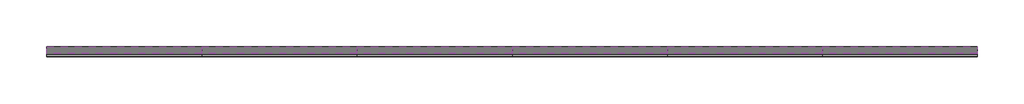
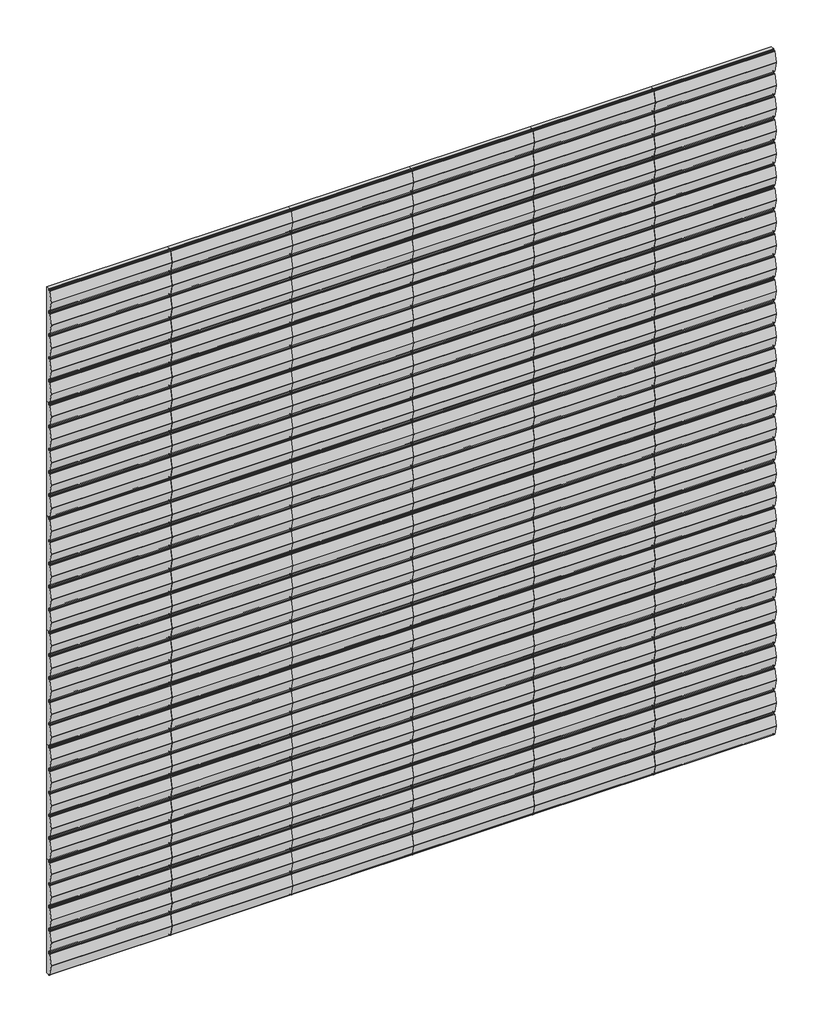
# One storey: 36 proxies.
"""IFC4 building model written with IfcOpenShell, lengths in millimetres."""

from ifc_helpers import new_model, si_unit, origin, place, context, project, spatial, transform, mapped, element, save
from components import specialty_equipment_52cbe585

model = new_model("IFC4")

# Units and contexts
model_context = context("Model", 3, world=origin())
ifc_project = project(units=[si_unit("LENGTHUNIT", "METRE", prefix="MILLI")], contexts=[model_context])

# Site, building, storey
site = spatial("IfcSite", under=ifc_project)
building = spatial("IfcBuilding", under=site)
storey = spatial("IfcBuildingStorey", under=building, Name="Nível 1", Elevation=0.0)

# Proxies
placement = place(None, origin())
specialty_equipment_shape = specialty_equipment_52cbe585(model_context)
element("IfcBuildingElementProxy", 1, Name="Spinneybeck_Porto 2 : Porto 2", ObjectType="Spinneybeck_Porto 2 : Porto 2", at=placement, inside=storey, context=model_context, shape_type="MappedRepresentation", body=[
    mapped(specialty_equipment_shape, transform((-8976.7950363, 552.5357437, 203.2), x_axis=(0.0, 0.0, 1.0), y_axis=(-1.0, 0.0, 0.0), z_axis=(0.0, -1.0, 0.0))),
])
element("IfcBuildingElementProxy", 2, Name="Spinneybeck_Porto 2 : Porto 2", ObjectType="Spinneybeck_Porto 2 : Porto 2", at=placement, inside=storey, context=model_context, shape_type="MappedRepresentation", body=[
    mapped(specialty_equipment_shape, transform((-8976.7950363, 552.5357437, 609.6), x_axis=(0.0, 0.0, 1.0), y_axis=(-1.0, 0.0, 0.0), z_axis=(0.0, -1.0, 0.0))),
])
element("IfcBuildingElementProxy", 3, Name="Spinneybeck_Porto 2 : Porto 2", ObjectType="Spinneybeck_Porto 2 : Porto 2", at=placement, inside=storey, context=model_context, shape_type="MappedRepresentation", body=[
    mapped(specialty_equipment_shape, transform((-8976.7950363, 552.5357437, 1016.0), x_axis=(0.0, 0.0, 1.0), y_axis=(-1.0, 0.0, 0.0), z_axis=(0.0, -1.0, 0.0))),
])
element("IfcBuildingElementProxy", 4, Name="Spinneybeck_Porto 2 : Porto 2", ObjectType="Spinneybeck_Porto 2 : Porto 2", at=placement, inside=storey, context=model_context, shape_type="MappedRepresentation", body=[
    mapped(specialty_equipment_shape, transform((-8976.7950363, 552.5357437, 1422.4), x_axis=(0.0, 0.0, 1.0), y_axis=(-1.0, 0.0, 0.0), z_axis=(0.0, -1.0, 0.0))),
])
element("IfcBuildingElementProxy", 5, Name="Spinneybeck_Porto 2 : Porto 2", ObjectType="Spinneybeck_Porto 2 : Porto 2", at=placement, inside=storey, context=model_context, shape_type="MappedRepresentation", body=[
    mapped(specialty_equipment_shape, transform((-8976.7950363, 552.5357437, 1828.8), x_axis=(0.0, 0.0, 1.0), y_axis=(-1.0, 0.0, 0.0), z_axis=(0.0, -1.0, 0.0))),
])
element("IfcBuildingElementProxy", 6, Name="Spinneybeck_Porto 2 : Porto 2", ObjectType="Spinneybeck_Porto 2 : Porto 2", at=placement, inside=storey, context=model_context, shape_type="MappedRepresentation", body=[
    mapped(specialty_equipment_shape, transform((-8976.7950363, 552.5357437, 2235.2), x_axis=(0.0, 0.0, 1.0), y_axis=(-1.0, 0.0, 0.0), z_axis=(0.0, -1.0, 0.0))),
])
element("IfcBuildingElementProxy", 7, Name="Spinneybeck_Porto 2 : Porto 2", ObjectType="Spinneybeck_Porto 2 : Porto 2", at=placement, inside=storey, context=model_context, shape_type="MappedRepresentation", body=[
    mapped(specialty_equipment_shape, transform((-8570.3950363, 552.5357437, 203.2), x_axis=(0.0, 0.0, 1.0), y_axis=(-1.0, 0.0, 0.0), z_axis=(0.0, -1.0, 0.0))),
])
element("IfcBuildingElementProxy", 8, Name="Spinneybeck_Porto 2 : Porto 2", ObjectType="Spinneybeck_Porto 2 : Porto 2", at=placement, inside=storey, context=model_context, shape_type="MappedRepresentation", body=[
    mapped(specialty_equipment_shape, transform((-8570.3950363, 552.5357437, 609.6), x_axis=(0.0, 0.0, 1.0), y_axis=(-1.0, 0.0, 0.0), z_axis=(0.0, -1.0, 0.0))),
])
element("IfcBuildingElementProxy", 9, Name="Spinneybeck_Porto 2 : Porto 2", ObjectType="Spinneybeck_Porto 2 : Porto 2", at=placement, inside=storey, context=model_context, shape_type="MappedRepresentation", body=[
    mapped(specialty_equipment_shape, transform((-8570.3950363, 552.5357437, 1016.0), x_axis=(0.0, 0.0, 1.0), y_axis=(-1.0, 0.0, 0.0), z_axis=(0.0, -1.0, 0.0))),
])
element("IfcBuildingElementProxy", 10, Name="Spinneybeck_Porto 2 : Porto 2", ObjectType="Spinneybeck_Porto 2 : Porto 2", at=placement, inside=storey, context=model_context, shape_type="MappedRepresentation", body=[
    mapped(specialty_equipment_shape, transform((-8570.3950363, 552.5357437, 1422.4), x_axis=(0.0, 0.0, 1.0), y_axis=(-1.0, 0.0, 0.0), z_axis=(0.0, -1.0, 0.0))),
])
element("IfcBuildingElementProxy", 11, Name="Spinneybeck_Porto 2 : Porto 2", ObjectType="Spinneybeck_Porto 2 : Porto 2", at=placement, inside=storey, context=model_context, shape_type="MappedRepresentation", body=[
    mapped(specialty_equipment_shape, transform((-8570.3950363, 552.5357437, 1828.8), x_axis=(0.0, 0.0, 1.0), y_axis=(-1.0, 0.0, 0.0), z_axis=(0.0, -1.0, 0.0))),
])
element("IfcBuildingElementProxy", 12, Name="Spinneybeck_Porto 2 : Porto 2", ObjectType="Spinneybeck_Porto 2 : Porto 2", at=placement, inside=storey, context=model_context, shape_type="MappedRepresentation", body=[
    mapped(specialty_equipment_shape, transform((-8570.3950363, 552.5357437, 2235.2), x_axis=(0.0, 0.0, 1.0), y_axis=(-1.0, 0.0, 0.0), z_axis=(0.0, -1.0, 0.0))),
])
element("IfcBuildingElementProxy", 13, Name="Spinneybeck_Porto 2 : Porto 2", ObjectType="Spinneybeck_Porto 2 : Porto 2", at=placement, inside=storey, context=model_context, shape_type="MappedRepresentation", body=[
    mapped(specialty_equipment_shape, transform((-8163.9950363, 552.5357437, 203.2), x_axis=(0.0, 0.0, 1.0), y_axis=(-1.0, 0.0, 0.0), z_axis=(0.0, -1.0, 0.0))),
])
element("IfcBuildingElementProxy", 14, Name="Spinneybeck_Porto 2 : Porto 2", ObjectType="Spinneybeck_Porto 2 : Porto 2", at=placement, inside=storey, context=model_context, shape_type="MappedRepresentation", body=[
    mapped(specialty_equipment_shape, transform((-8163.9950363, 552.5357437, 609.6), x_axis=(0.0, 0.0, 1.0), y_axis=(-1.0, 0.0, 0.0), z_axis=(0.0, -1.0, 0.0))),
])
element("IfcBuildingElementProxy", 15, Name="Spinneybeck_Porto 2 : Porto 2", ObjectType="Spinneybeck_Porto 2 : Porto 2", at=placement, inside=storey, context=model_context, shape_type="MappedRepresentation", body=[
    mapped(specialty_equipment_shape, transform((-8163.9950363, 552.5357437, 1016.0), x_axis=(0.0, 0.0, 1.0), y_axis=(-1.0, 0.0, 0.0), z_axis=(0.0, -1.0, 0.0))),
])
element("IfcBuildingElementProxy", 16, Name="Spinneybeck_Porto 2 : Porto 2", ObjectType="Spinneybeck_Porto 2 : Porto 2", at=placement, inside=storey, context=model_context, shape_type="MappedRepresentation", body=[
    mapped(specialty_equipment_shape, transform((-8163.9950363, 552.5357437, 1422.4), x_axis=(0.0, 0.0, 1.0), y_axis=(-1.0, 0.0, 0.0), z_axis=(0.0, -1.0, 0.0))),
])
element("IfcBuildingElementProxy", 17, Name="Spinneybeck_Porto 2 : Porto 2", ObjectType="Spinneybeck_Porto 2 : Porto 2", at=placement, inside=storey, context=model_context, shape_type="MappedRepresentation", body=[
    mapped(specialty_equipment_shape, transform((-8163.9950363, 552.5357437, 1828.8), x_axis=(0.0, 0.0, 1.0), y_axis=(-1.0, 0.0, 0.0), z_axis=(0.0, -1.0, 0.0))),
])
element("IfcBuildingElementProxy", 18, Name="Spinneybeck_Porto 2 : Porto 2", ObjectType="Spinneybeck_Porto 2 : Porto 2", at=placement, inside=storey, context=model_context, shape_type="MappedRepresentation", body=[
    mapped(specialty_equipment_shape, transform((-8163.9950363, 552.5357437, 2235.2), x_axis=(0.0, 0.0, 1.0), y_axis=(-1.0, 0.0, 0.0), z_axis=(0.0, -1.0, 0.0))),
])
element("IfcBuildingElementProxy", 19, Name="Spinneybeck_Porto 2 : Porto 2", ObjectType="Spinneybeck_Porto 2 : Porto 2", at=placement, inside=storey, context=model_context, shape_type="MappedRepresentation", body=[
    mapped(specialty_equipment_shape, transform((-7757.5950363, 552.5357437, 203.2), x_axis=(0.0, 0.0, 1.0), y_axis=(-1.0, 0.0, 0.0), z_axis=(0.0, -1.0, 0.0))),
])
element("IfcBuildingElementProxy", 20, Name="Spinneybeck_Porto 2 : Porto 2", ObjectType="Spinneybeck_Porto 2 : Porto 2", at=placement, inside=storey, context=model_context, shape_type="MappedRepresentation", body=[
    mapped(specialty_equipment_shape, transform((-7757.5950363, 552.5357437, 609.6), x_axis=(0.0, 0.0, 1.0), y_axis=(-1.0, 0.0, 0.0), z_axis=(0.0, -1.0, 0.0))),
])
element("IfcBuildingElementProxy", 21, Name="Spinneybeck_Porto 2 : Porto 2", ObjectType="Spinneybeck_Porto 2 : Porto 2", at=placement, inside=storey, context=model_context, shape_type="MappedRepresentation", body=[
    mapped(specialty_equipment_shape, transform((-7757.5950363, 552.5357437, 1016.0), x_axis=(0.0, 0.0, 1.0), y_axis=(-1.0, 0.0, 0.0), z_axis=(0.0, -1.0, 0.0))),
])
element("IfcBuildingElementProxy", 22, Name="Spinneybeck_Porto 2 : Porto 2", ObjectType="Spinneybeck_Porto 2 : Porto 2", at=placement, inside=storey, context=model_context, shape_type="MappedRepresentation", body=[
    mapped(specialty_equipment_shape, transform((-7757.5950363, 552.5357437, 1422.4), x_axis=(0.0, 0.0, 1.0), y_axis=(-1.0, 0.0, 0.0), z_axis=(0.0, -1.0, 0.0))),
])
element("IfcBuildingElementProxy", 23, Name="Spinneybeck_Porto 2 : Porto 2", ObjectType="Spinneybeck_Porto 2 : Porto 2", at=placement, inside=storey, context=model_context, shape_type="MappedRepresentation", body=[
    mapped(specialty_equipment_shape, transform((-7757.5950363, 552.5357437, 1828.8), x_axis=(0.0, 0.0, 1.0), y_axis=(-1.0, 0.0, 0.0), z_axis=(0.0, -1.0, 0.0))),
])
element("IfcBuildingElementProxy", 24, Name="Spinneybeck_Porto 2 : Porto 2", ObjectType="Spinneybeck_Porto 2 : Porto 2", at=placement, inside=storey, context=model_context, shape_type="MappedRepresentation", body=[
    mapped(specialty_equipment_shape, transform((-7757.5950363, 552.5357437, 2235.2), x_axis=(0.0, 0.0, 1.0), y_axis=(-1.0, 0.0, 0.0), z_axis=(0.0, -1.0, 0.0))),
])
element("IfcBuildingElementProxy", 25, Name="Spinneybeck_Porto 2 : Porto 2", ObjectType="Spinneybeck_Porto 2 : Porto 2", at=placement, inside=storey, context=model_context, shape_type="MappedRepresentation", body=[
    mapped(specialty_equipment_shape, transform((-7351.1950363, 552.5357437, 203.2), x_axis=(0.0, 0.0, 1.0), y_axis=(-1.0, 0.0, 0.0), z_axis=(0.0, -1.0, 0.0))),
])
element("IfcBuildingElementProxy", 26, Name="Spinneybeck_Porto 2 : Porto 2", ObjectType="Spinneybeck_Porto 2 : Porto 2", at=placement, inside=storey, context=model_context, shape_type="MappedRepresentation", body=[
    mapped(specialty_equipment_shape, transform((-7351.1950363, 552.5357437, 609.6), x_axis=(0.0, 0.0, 1.0), y_axis=(-1.0, 0.0, 0.0), z_axis=(0.0, -1.0, 0.0))),
])
element("IfcBuildingElementProxy", 27, Name="Spinneybeck_Porto 2 : Porto 2", ObjectType="Spinneybeck_Porto 2 : Porto 2", at=placement, inside=storey, context=model_context, shape_type="MappedRepresentation", body=[
    mapped(specialty_equipment_shape, transform((-7351.1950363, 552.5357437, 1016.0), x_axis=(0.0, 0.0, 1.0), y_axis=(-1.0, 0.0, 0.0), z_axis=(0.0, -1.0, 0.0))),
])
element("IfcBuildingElementProxy", 28, Name="Spinneybeck_Porto 2 : Porto 2", ObjectType="Spinneybeck_Porto 2 : Porto 2", at=placement, inside=storey, context=model_context, shape_type="MappedRepresentation", body=[
    mapped(specialty_equipment_shape, transform((-7351.1950363, 552.5357437, 1422.4), x_axis=(0.0, 0.0, 1.0), y_axis=(-1.0, 0.0, 0.0), z_axis=(0.0, -1.0, 0.0))),
])
element("IfcBuildingElementProxy", 29, Name="Spinneybeck_Porto 2 : Porto 2", ObjectType="Spinneybeck_Porto 2 : Porto 2", at=placement, inside=storey, context=model_context, shape_type="MappedRepresentation", body=[
    mapped(specialty_equipment_shape, transform((-7351.1950363, 552.5357437, 1828.8), x_axis=(0.0, 0.0, 1.0), y_axis=(-1.0, 0.0, 0.0), z_axis=(0.0, -1.0, 0.0))),
])
element("IfcBuildingElementProxy", 30, Name="Spinneybeck_Porto 2 : Porto 2", ObjectType="Spinneybeck_Porto 2 : Porto 2", at=placement, inside=storey, context=model_context, shape_type="MappedRepresentation", body=[
    mapped(specialty_equipment_shape, transform((-7351.1950363, 552.5357437, 2235.2), x_axis=(0.0, 0.0, 1.0), y_axis=(-1.0, 0.0, 0.0), z_axis=(0.0, -1.0, 0.0))),
])
element("IfcBuildingElementProxy", 31, Name="Spinneybeck_Porto 2 : Porto 2", ObjectType="Spinneybeck_Porto 2 : Porto 2", at=placement, inside=storey, context=model_context, shape_type="MappedRepresentation", body=[
    mapped(specialty_equipment_shape, transform((-6944.7950363, 552.5357437, 203.2), x_axis=(0.0, 0.0, 1.0), y_axis=(-1.0, 0.0, 0.0), z_axis=(0.0, -1.0, 0.0))),
])
element("IfcBuildingElementProxy", 32, Name="Spinneybeck_Porto 2 : Porto 2", ObjectType="Spinneybeck_Porto 2 : Porto 2", at=placement, inside=storey, context=model_context, shape_type="MappedRepresentation", body=[
    mapped(specialty_equipment_shape, transform((-6944.7950363, 552.5357437, 609.6), x_axis=(0.0, 0.0, 1.0), y_axis=(-1.0, 0.0, 0.0), z_axis=(0.0, -1.0, 0.0))),
])
element("IfcBuildingElementProxy", 33, Name="Spinneybeck_Porto 2 : Porto 2", ObjectType="Spinneybeck_Porto 2 : Porto 2", at=placement, inside=storey, context=model_context, shape_type="MappedRepresentation", body=[
    mapped(specialty_equipment_shape, transform((-6944.7950363, 552.5357437, 1016.0), x_axis=(0.0, 0.0, 1.0), y_axis=(-1.0, 0.0, 0.0), z_axis=(0.0, -1.0, 0.0))),
])
element("IfcBuildingElementProxy", 34, Name="Spinneybeck_Porto 2 : Porto 2", ObjectType="Spinneybeck_Porto 2 : Porto 2", at=placement, inside=storey, context=model_context, shape_type="MappedRepresentation", body=[
    mapped(specialty_equipment_shape, transform((-6944.7950363, 552.5357437, 1422.4), x_axis=(0.0, 0.0, 1.0), y_axis=(-1.0, 0.0, 0.0), z_axis=(0.0, -1.0, 0.0))),
])
element("IfcBuildingElementProxy", 35, Name="Spinneybeck_Porto 2 : Porto 2", ObjectType="Spinneybeck_Porto 2 : Porto 2", at=placement, inside=storey, context=model_context, shape_type="MappedRepresentation", body=[
    mapped(specialty_equipment_shape, transform((-6944.7950363, 552.5357437, 1828.8), x_axis=(0.0, 0.0, 1.0), y_axis=(-1.0, 0.0, 0.0), z_axis=(0.0, -1.0, 0.0))),
])
element("IfcBuildingElementProxy", 36, Name="Spinneybeck_Porto 2 : Porto 2", ObjectType="Spinneybeck_Porto 2 : Porto 2", at=placement, inside=storey, context=model_context, shape_type="MappedRepresentation", body=[
    mapped(specialty_equipment_shape, transform((-6944.7950363, 552.5357437, 2235.2), x_axis=(0.0, 0.0, 1.0), y_axis=(-1.0, 0.0, 0.0), z_axis=(0.0, -1.0, 0.0))),
])

save(model, "model.ifc")
